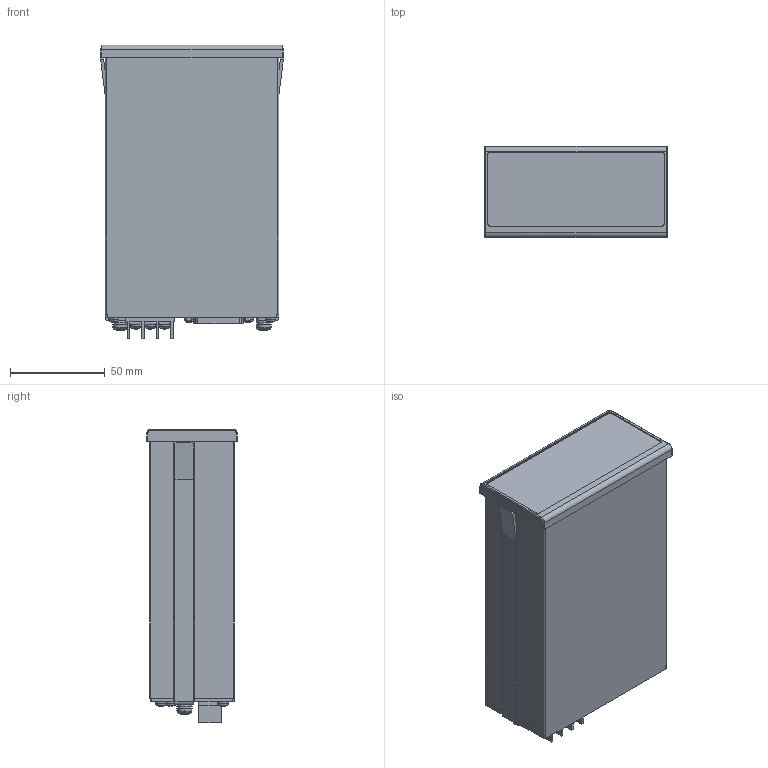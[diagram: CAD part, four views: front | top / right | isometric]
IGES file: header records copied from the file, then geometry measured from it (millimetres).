
Start section: Elysium IGES Interface
Global section: file name: 70HU:\cad_data\30_3D_CAD\LG\01_奜娤3D僨乕僞_20170601峏怴\IGES\EG-101D.igs; native system: Creo Elements/Direct Modeling 18.1B  29-Sep-2012; preprocessor: Creo Element/Direct IGES_3D V2.2; author: Unknown; organization: Unknown; date: 20170921.095715; units: millimetre
Bounding box: 96.48 x 48 x 154.6 mm (x, y, z)
Volume: 582056.5 mm3; surface area: 58887.7 mm2
Topology: 1 solids, 1 shells, 743 faces, 2000 edges, 1290 vertices
Faces by surface type: bspline 743
